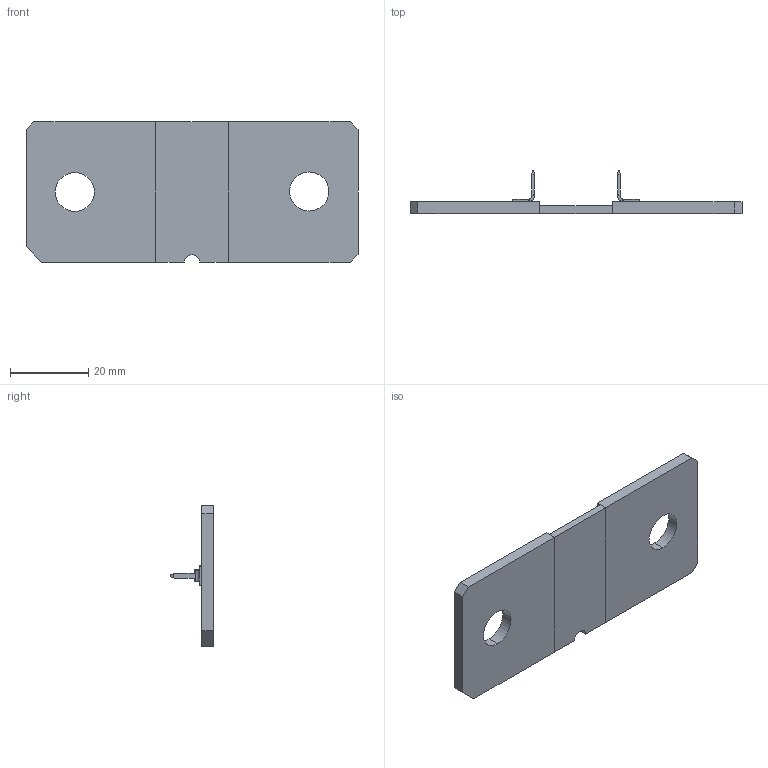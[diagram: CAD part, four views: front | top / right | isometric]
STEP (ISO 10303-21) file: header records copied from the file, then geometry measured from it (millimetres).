
FILE_DESCRIPTION (( 'STEP AP214' ), '1' );
FILE_NAME ('WSBS8536-60 100 microohm.STEP', '2021-04-27T16:12:29', ( '' ), ( '' ), 'SwSTEP 2.0', 'SolidWorks 2019', '' );
FILE_SCHEMA (( 'AUTOMOTIVE_DESIGN' ));
Length unit declared in the file: inch
Products named in the file (5): Right Terminal WSBS 8536-14 100 microohm; WSBS8536-60 100 microohm; SHUNT TERMINAL - VISHAY; Element WSBS 8536 100 microohm; Left Terminal WSBS 8536-14 100 microohm
Assembly tree (5 placements, depth 2):
  WSBS8536-60 100 microohm
    Element WSBS 8536 100 microohm
    Left Terminal WSBS 8536-14 100 microohm
    Right Terminal WSBS 8536-14 100 microohm
    SHUNT TERMINAL - VISHAY  x2
Bounding box: 84.99 x 10.99 x 35.99 mm (x, y, z)
Volume: 8007.4 mm3; surface area: 7162.1 mm2
Topology: 5 solids, 5 shells, 101 faces, 257 edges, 166 vertices
Faces by surface type: plane 67, cylinder 26, bspline 8
Entity records: 2339 total; most frequent: CARTESIAN_POINT 482, ORIENTED_EDGE 326, DIRECTION 317, EDGE_CURVE 163, VECTOR 115, LINE 115, VERTEX_POINT 106, AXIS2_PLACEMENT_3D 101
